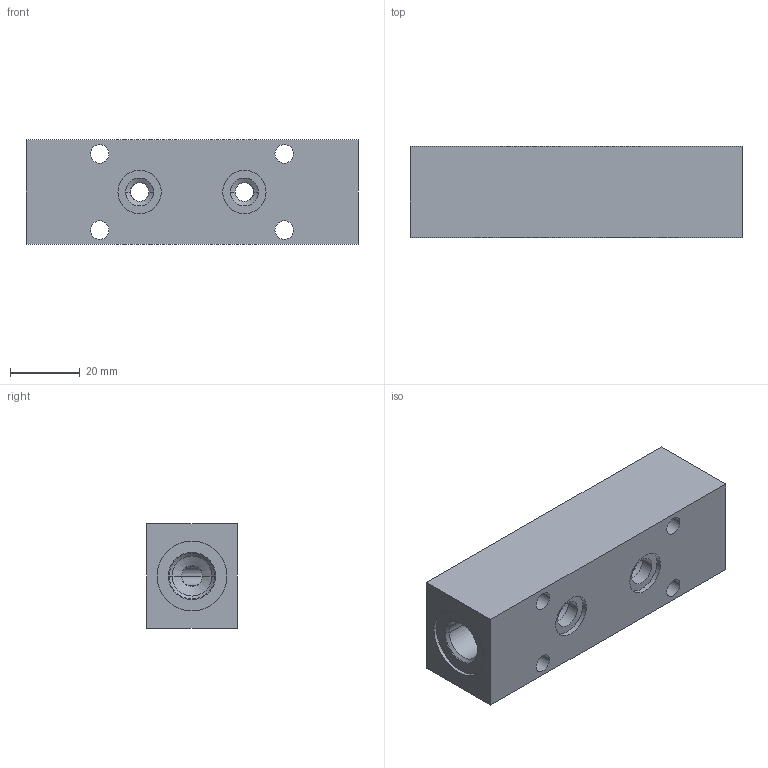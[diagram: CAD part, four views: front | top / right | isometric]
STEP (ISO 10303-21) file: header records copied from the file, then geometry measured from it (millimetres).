
FILE_DESCRIPTION((''),'2;1');
FILE_NAME('29585000','2020-09-09T',('l.soukupova'),(''),'PRO/ENGINEER BY PARAMETRIC TECHNOLOGY CORPORATION, 2015440','PRO/ENGINEER BY PARAMETRIC TECHNOLOGY CORPORATION, 2015440','');
FILE_SCHEMA(('AUTOMOTIVE_DESIGN { 1 0 10303 214 1 1 1 1 }'));
Length unit declared in the file: millimetre
Products named in the file (1): 29585000
Bounding box: 95 x 26 x 30 mm (x, y, z)
Volume: 65453.3 mm3; surface area: 17254.9 mm2
Topology: 1 solids, 3 shells, 64 faces, 181 edges, 140 vertices
Faces by surface type: cylinder 36, cone 16, plane 12
Entity records: 3013 total; most frequent: CARTESIAN_POINT 574, DIRECTION 383, ORIENTED_EDGE 300, PRESENTATION_STYLE_ASSIGNMENT 195, STYLED_ITEM 189, CURVE_STYLE 186, EDGE_CURVE 154, AXIS2_PLACEMENT_3D 147
